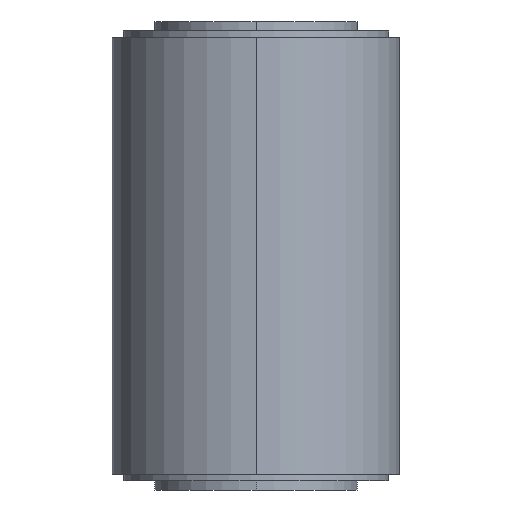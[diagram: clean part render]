
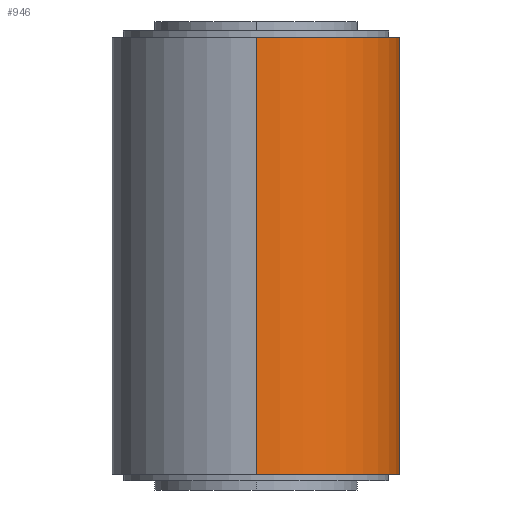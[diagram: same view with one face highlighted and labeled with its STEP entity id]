
A CAD part, left-side view. The second image highlights one B-rep face of the part: STEP entity #946.
In plain terms, the highlighted cylindrical face has radius 64 mm (diameter 128 mm), a partial arc.
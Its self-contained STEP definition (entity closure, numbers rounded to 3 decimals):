
#80 = EDGE_LOOP ( 'NONE', ( #1637, #426, #728, #1427 ) ) ;
#83 = DIRECTION ( 'NONE',  ( 0., 0., 1. ) ) ;
#124 = AXIS2_PLACEMENT_3D ( 'NONE', #222, #83, #1215 ) ;
#186 = CARTESIAN_POINT ( 'NONE',  ( 100.527, -74.553, 100. ) ) ;
#192 = DIRECTION ( 'NONE',  ( 0., 0., -1. ) ) ;
#222 = CARTESIAN_POINT ( 'NONE',  ( 64., -22., -97. ) ) ;
#225 = DIRECTION ( 'NONE',  ( 1., 0., 0. ) ) ;
#256 = CARTESIAN_POINT ( 'NONE',  ( 0., -22., 97. ) ) ;
#323 = DIRECTION ( 'NONE',  ( 0., 0., -1. ) ) ;
#426 = ORIENTED_EDGE ( 'NONE', *, *, #1351, .T. ) ;
#477 = DIRECTION ( 'NONE',  ( 0., 0., -1. ) ) ;
#493 = CARTESIAN_POINT ( 'NONE',  ( 64., -22., 100. ) ) ;
#538 = VERTEX_POINT ( 'NONE', #560 ) ;
#545 = FACE_OUTER_BOUND ( 'NONE', #80, .T. ) ;
#546 = CIRCLE ( 'NONE', #982, 64. ) ;
#560 = CARTESIAN_POINT ( 'NONE',  ( 100.527, -74.553, 97. ) ) ;
#576 = VERTEX_POINT ( 'NONE', #256 ) ;
#645 = CARTESIAN_POINT ( 'NONE',  ( 100.527, -74.553, -97. ) ) ;
#728 = ORIENTED_EDGE ( 'NONE', *, *, #1577, .T. ) ;
#811 = CARTESIAN_POINT ( 'NONE',  ( 0., -22., 100. ) ) ;
#831 = AXIS2_PLACEMENT_3D ( 'NONE', #493, #192, #1436 ) ;
#905 = CYLINDRICAL_SURFACE ( 'NONE', #831, 64. ) ;
#946 = ADVANCED_FACE ( 'NONE', ( #545 ), #905, .T. ) ;
#982 = AXIS2_PLACEMENT_3D ( 'NONE', #1164, #1657, #225 ) ;
#1032 = CARTESIAN_POINT ( 'NONE',  ( 0., -22., -97. ) ) ;
#1079 = LINE ( 'NONE', #811, #1719 ) ;
#1164 = CARTESIAN_POINT ( 'NONE',  ( 64., -22., 97. ) ) ;
#1165 = VERTEX_POINT ( 'NONE', #1032 ) ;
#1215 = DIRECTION ( 'NONE',  ( 1., 0., 0. ) ) ;
#1351 = EDGE_CURVE ( 'NONE', #576, #1165, #1079, .T. ) ;
#1427 = ORIENTED_EDGE ( 'NONE', *, *, #1871, .F. ) ;
#1431 = VERTEX_POINT ( 'NONE', #645 ) ;
#1436 = DIRECTION ( 'NONE',  ( -1., 0., 0. ) ) ;
#1577 = EDGE_CURVE ( 'NONE', #1165, #1431, #1628, .T. ) ;
#1602 = EDGE_CURVE ( 'NONE', #576, #538, #546, .T. ) ;
#1628 = CIRCLE ( 'NONE', #124, 64. ) ;
#1637 = ORIENTED_EDGE ( 'NONE', *, *, #1602, .F. ) ;
#1657 = DIRECTION ( 'NONE',  ( 0., 0., 1. ) ) ;
#1719 = VECTOR ( 'NONE', #323, 1000. ) ;
#1726 = VECTOR ( 'NONE', #477, 1000. ) ;
#1801 = LINE ( 'NONE', #186, #1726 ) ;
#1871 = EDGE_CURVE ( 'NONE', #538, #1431, #1801, .T. ) ;
